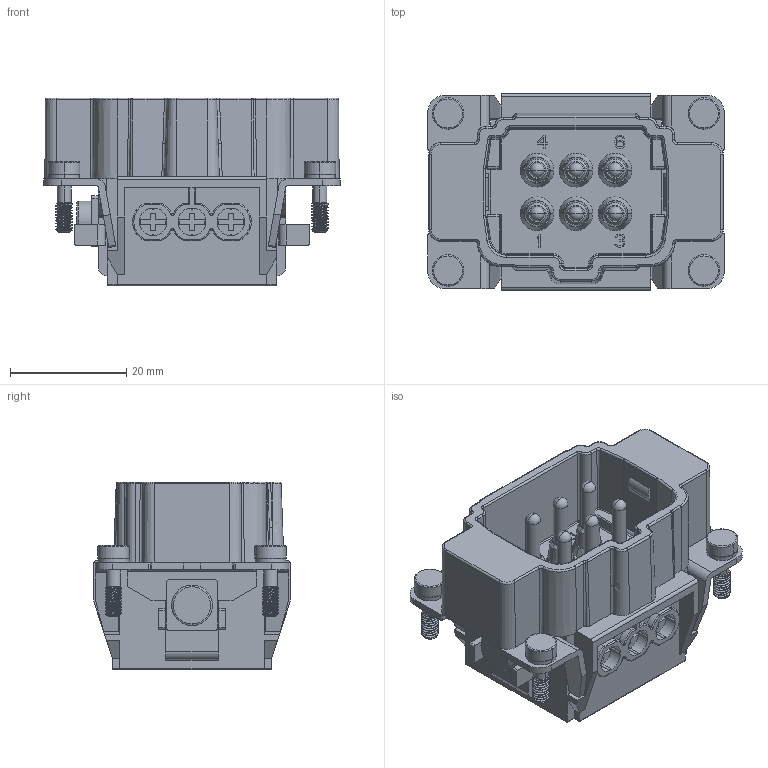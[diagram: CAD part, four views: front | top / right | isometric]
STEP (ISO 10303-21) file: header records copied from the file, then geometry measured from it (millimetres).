
FILE_DESCRIPTION((''),'2;1');
FILE_NAME('C-T2040062101-000','2016-08-03T',('workeradm'),('Tyco Electronics Ltd.'),'CREO PARAMETRIC BY PTC INC, 2016050','CREO PARAMETRIC BY PTC INC, 2016050','');
FILE_SCHEMA(('AUTOMOTIVE_DESIGN { 1 0 10303 214 1 1 1 1 }'));
Products named in the file (1): C-T2040062101-000
Bounding box: 51 x 33.8 x 32.3 mm (x, y, z)
Volume: 24529.5 mm3; surface area: 11817 mm2
Topology: 1 solids, 1 shells, 1185 faces, 3125 edges, 1976 vertices
Faces by surface type: plane 500, cylinder 371, cone 110, torus 92, bspline 92, sphere 16, extrusion 4
Entity records: 59989 total; most frequent: CARTESIAN_POINT 31145, ORIENTED_EDGE 6226, DIRECTION 5697, EDGE_CURVE 3113, VERTEX_POINT 1976, AXIS2_PLACEMENT_3D 1961, VECTOR 1775, LINE 1771
